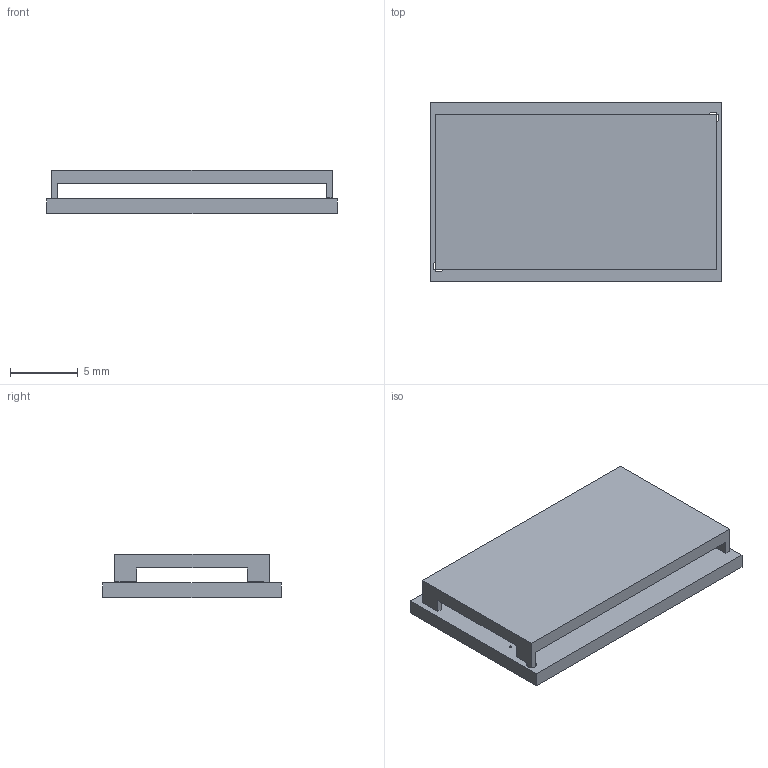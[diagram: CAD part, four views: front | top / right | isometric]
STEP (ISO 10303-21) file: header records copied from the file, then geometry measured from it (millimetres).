
FILE_DESCRIPTION(('Open CASCADE Model'),'2;1');
FILE_NAME('Open CASCADE Shape Model','2013-06-20T15:32:31',('Author'),( 'Open CASCADE'),'Open CASCADE STEP processor 6.2','Open CASCADE 6.2' ,'Unknown');
FILE_SCHEMA(('AUTOMOTIVE_DESIGN { 1 0 10303 214 1 1 1 1 }'));
Length unit declared in the file: millimetre
Products named in the file (4): PCB; Board; SH1; deRFmini_Long-RF-Shielding
Assembly tree (3 placements, depth 3):
  PCB
    Board
    SH1
      deRFmini_Long-RF-Shielding
Bounding box: 21.5 x 13.2 x 3.19 mm (x, y, z)
Volume: 414.6 mm3; surface area: 1238.6 mm2
Topology: 2 solids, 2 shells, 35 faces, 93 edges, 62 vertices
Faces by surface type: plane 32, cylinder 3
Full cylindrical faces by diameter (mm): 0.2 x1, 0.8 x2
Entity records: 2376 total; most frequent: CARTESIAN_POINT 380, DIRECTION 363, LINE 267, VECTOR 267, ORIENTED_EDGE 186, PCURVE 186, DEFINITIONAL_REPRESENTATION 186, EDGE_CURVE 93
